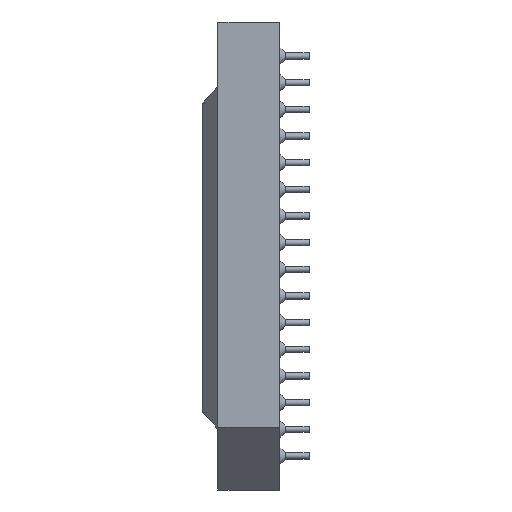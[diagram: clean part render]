
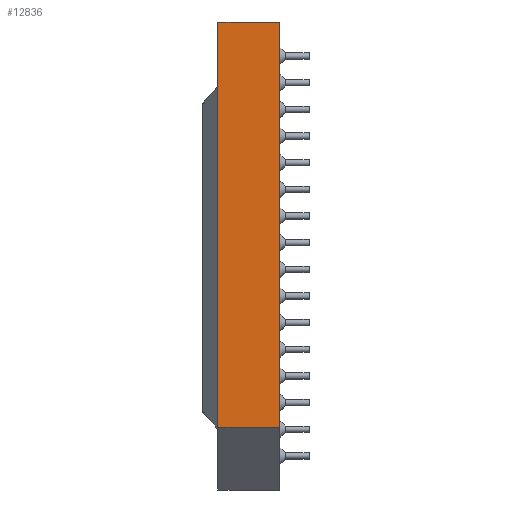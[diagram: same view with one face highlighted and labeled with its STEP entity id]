
A CAD part, left-side view. The second image highlights one B-rep face of the part: STEP entity #12836.
In plain terms, the highlighted planar face has unit normal (-1, 0, 0).
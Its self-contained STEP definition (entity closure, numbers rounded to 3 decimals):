
#2087 = VERTEX_POINT ( 'NONE', #13425 ) ;
#2191 = VERTEX_POINT ( 'NONE', #3288 ) ;
#2210 = VERTEX_POINT ( 'NONE', #3346 ) ;
#3064 = EDGE_CURVE ( 'NONE', #2087, #2191, #5237, .T. ) ;
#3288 = CARTESIAN_POINT ( 'NONE',  ( -16.1, 0., 11.15 ) ) ;
#3346 = CARTESIAN_POINT ( 'NONE',  ( -16.1, 2.95, 11.15 ) ) ;
#5237 = LINE ( 'NONE', #21172, #5239 ) ;
#5239 = VECTOR ( 'NONE', #21202, 1000. ) ;
#7298 = CARTESIAN_POINT ( 'NONE',  ( -16.1, 2.95, -8.15 ) ) ;
#9916 = VERTEX_POINT ( 'NONE', #7298 ) ;
#11825 = EDGE_CURVE ( 'NONE', #2210, #2191, #16868, .T. ) ;
#11826 = EDGE_CURVE ( 'NONE', #9916, #2087, #16870, .T. ) ;
#11837 = EDGE_CURVE ( 'NONE', #9916, #2210, #16886, .T. ) ;
#12237 = ORIENTED_EDGE ( 'NONE', *, *, #11837, .F. ) ;
#12239 = ORIENTED_EDGE ( 'NONE', *, *, #11826, .T. ) ;
#12391 = ORIENTED_EDGE ( 'NONE', *, *, #11825, .F. ) ;
#12511 = ORIENTED_EDGE ( 'NONE', *, *, #3064, .T. ) ;
#12836 = ADVANCED_FACE ( 'NONE', ( #18437 ), #17485, .F. ) ;
#13425 = CARTESIAN_POINT ( 'NONE',  ( -16.1, 0., -8.15 ) ) ;
#13750 = EDGE_LOOP ( 'NONE', ( #12237, #12239, #12511, #12391 ) ) ;
#15817 = CARTESIAN_POINT ( 'NONE',  ( -16.1, 2.95, 11.15 ) ) ;
#15818 = DIRECTION ( 'NONE',  ( 0., -1., 0. ) ) ;
#15819 = CARTESIAN_POINT ( 'NONE',  ( -16.1, 2.95, -8.15 ) ) ;
#15820 = DIRECTION ( 'NONE',  ( 0., -1., 0. ) ) ;
#15847 = CARTESIAN_POINT ( 'NONE',  ( -16.1, 2.95, 11.15 ) ) ;
#15848 = DIRECTION ( 'NONE',  ( 0., 0., 1. ) ) ;
#16868 = LINE ( 'NONE', #15817, #16871 ) ;
#16870 = LINE ( 'NONE', #15819, #16873 ) ;
#16871 = VECTOR ( 'NONE', #15818, 1000. ) ;
#16873 = VECTOR ( 'NONE', #15820, 1000. ) ;
#16886 = LINE ( 'NONE', #15847, #16889 ) ;
#16889 = VECTOR ( 'NONE', #15848, 1000. ) ;
#17483 = CARTESIAN_POINT ( 'NONE',  ( -16.1, 2.95, 11.15 ) ) ;
#17485 = PLANE ( 'NONE',  #20446 ) ;
#17488 = DIRECTION ( 'NONE',  ( 1., 0., 0. ) ) ;
#17489 = DIRECTION ( 'NONE',  ( 0., 0., -1. ) ) ;
#18437 = FACE_OUTER_BOUND ( 'NONE', #13750, .T. ) ;
#20446 = AXIS2_PLACEMENT_3D ( 'NONE', #17483, #17488, #17489 ) ;
#21172 = CARTESIAN_POINT ( 'NONE',  ( -16.1, 0., 11.15 ) ) ;
#21202 = DIRECTION ( 'NONE',  ( 0., 0., 1. ) ) ;
